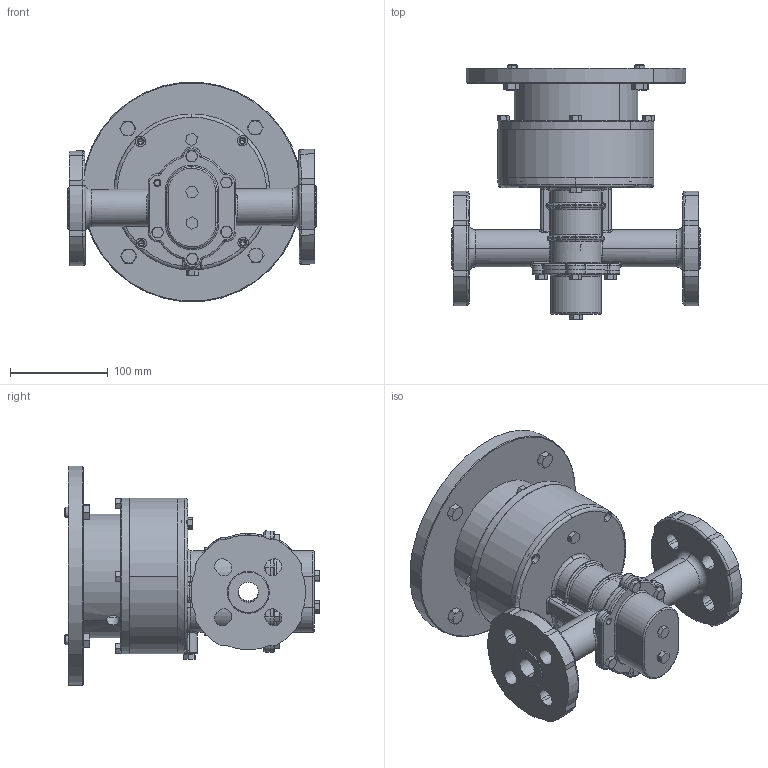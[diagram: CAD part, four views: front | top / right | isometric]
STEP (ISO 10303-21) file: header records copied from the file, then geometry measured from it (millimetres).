
FILE_DESCRIPTION (( 'STEP AP214' ), '1' );
FILE_NAME ('E25M FLNG 182-4TC NO MTR.STEP', '2025-07-11T13:40:56', ( '' ), ( '' ), 'SwSTEP 2.0', 'SolidWorks 2024', '' );
FILE_SCHEMA (( 'AUTOMOTIVE_DESIGN' ));
Length unit declared in the file: inch
Products named in the file (10): 49610; NG040059_MACHINE; NG020017_MACHINE; socket head cap screw_ai_HX-SHCS 0.25-28x0.625x0.625-N; hex bolt_ai_HBOLT 0.3750-16x0.75x0.75-N; hex bolt_ai_HBOLT 0.2500-28x0.5x0.5-N; E25M FLNG 182-4TC NO MTR; NG110029; W772565_4452K541; hex bolt_ai_HBOLT 0.2500-28x0.75x0.75-N
Assembly tree (22 placements, depth 2):
  E25M FLNG 182-4TC NO MTR
    NG040059_MACHINE
    NG020017_MACHINE
    49610
    hex bolt_ai_HBOLT 0.2500-28x0.75x0.75-N  x4
    socket head cap screw_ai_HX-SHCS 0.25-28x0.625x0.625-N
    hex bolt_ai_HBOLT 0.3750-16x0.75x0.75-N  x4
    hex bolt_ai_HBOLT 0.2500-28x0.5x0.5-N  x5
    NG110029
    W772565_4452K541  x4
Bounding box: 254.17 x 260.64 x 224.31 mm (x, y, z)
Volume: 1638758.1 mm3; surface area: 431060.7 mm2
Topology: 22 solids, 22 shells, 1352 faces, 3647 edges, 2334 vertices
Faces by surface type: cylinder 419, plane 309, cone 283, torus 243, bspline 56, sphere 42
Entity records: 39102 total; most frequent: CARTESIAN_POINT 13246, DIRECTION 5719, ORIENTED_EDGE 5228, EDGE_CURVE 2614, AXIS2_PLACEMENT_3D 2446, VERTEX_POINT 1611, CIRCLE 1417, EDGE_LOOP 1169
